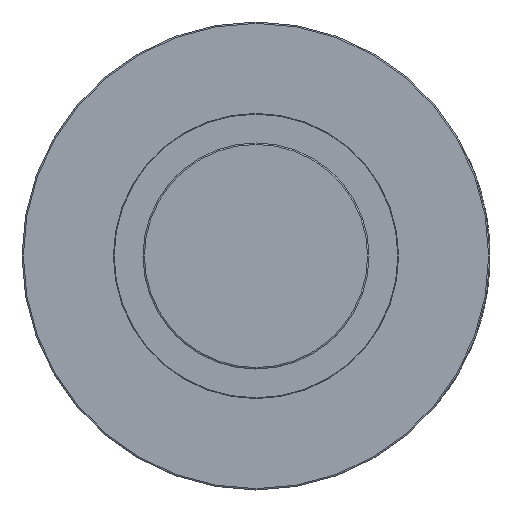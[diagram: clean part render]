
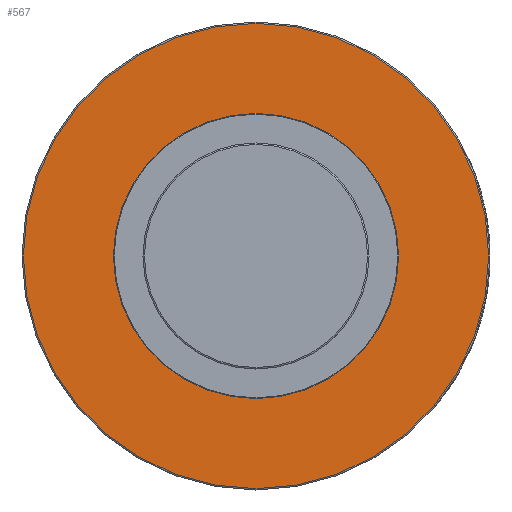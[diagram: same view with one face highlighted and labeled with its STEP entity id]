
A CAD part, left-side view. The second image highlights one B-rep face of the part: STEP entity #567.
In plain terms, the highlighted planar face has unit normal (-1, 0, 0).
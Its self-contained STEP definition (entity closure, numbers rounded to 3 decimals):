
#567 = ADVANCED_FACE( '', ( #1215, #1216 ), #1217, .F. );
#1215 = FACE_BOUND( '', #3145, .T. );
#1216 = FACE_OUTER_BOUND( '', #3146, .T. );
#1217 = PLANE( '', #3147 );
#3145 = EDGE_LOOP( '', ( #4897 ) );
#3146 = EDGE_LOOP( '', ( #4898 ) );
#3147 = AXIS2_PLACEMENT_3D( '', #4899, #4900, #4901 );
#4897 = ORIENTED_EDGE( '', *, *, #5881, .F. );
#4898 = ORIENTED_EDGE( '', *, *, #5326, .T. );
#4899 = CARTESIAN_POINT( '', ( 45.187, 0., 47.828 ) );
#4900 = DIRECTION( '', ( 1., 0., 0. ) );
#4901 = DIRECTION( '', ( 0., 0., -1. ) );
#5326 = EDGE_CURVE( '', #6095, #6095, #6096, .T. );
#5881 = EDGE_CURVE( '', #6950, #6950, #6951, .T. );
#6095 = VERTEX_POINT( '', #7269 );
#6096 = CIRCLE( '', #7270, 78.143 );
#6950 = VERTEX_POINT( '', #9615 );
#6951 = CIRCLE( '', #9616, 47.892 );
#7269 = CARTESIAN_POINT( '', ( 45.187, 0., 78.08 ) );
#7270 = AXIS2_PLACEMENT_3D( '', #9920, #9921, #9922 );
#9615 = CARTESIAN_POINT( '', ( 45.187, 0., 47.828 ) );
#9616 = AXIS2_PLACEMENT_3D( '', #9971, #9972, #9973 );
#9920 = CARTESIAN_POINT( '', ( 45.187, 0., -0.064 ) );
#9921 = DIRECTION( '', ( -1., 0., 0. ) );
#9922 = DIRECTION( '', ( 0., 0., 1. ) );
#9971 = CARTESIAN_POINT( '', ( 45.187, 0., -0.064 ) );
#9972 = DIRECTION( '', ( -1., 0., 0. ) );
#9973 = DIRECTION( '', ( 0., 0., 1. ) );
